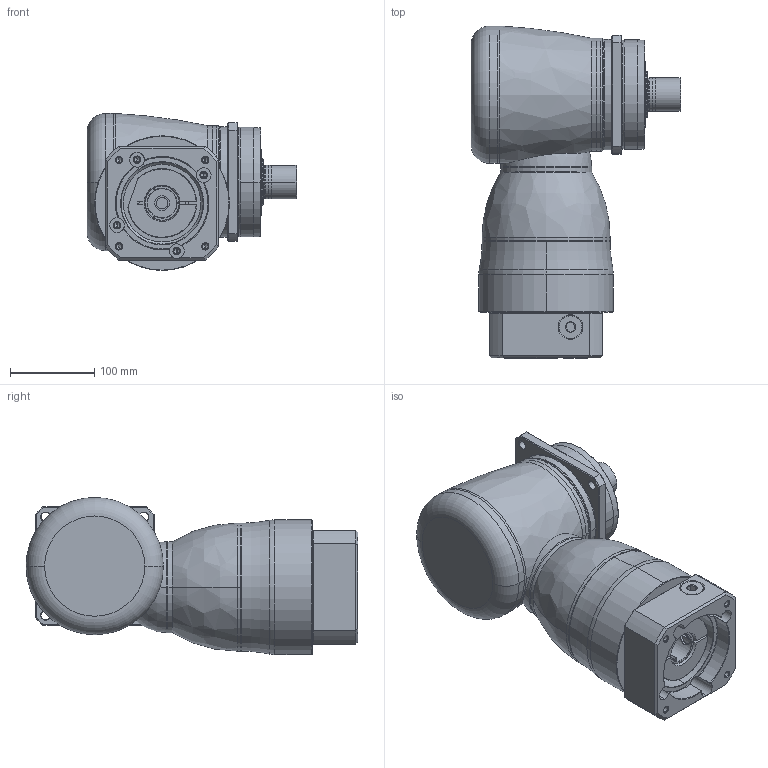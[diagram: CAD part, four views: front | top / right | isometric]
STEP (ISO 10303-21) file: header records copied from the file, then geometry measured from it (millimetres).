
FILE_DESCRIPTION((''),'2;1');
FILE_NAME('KF140_S3_2ST_35-P0409800101_ASM','2016-07-12T',('d01943'),(''),'PRO/ENGINEER BY PARAMETRIC TECHNOLOGY CORPORATION, 2008410','PRO/ENGINEER BY PARAMETRIC TECHNOLOGY CORPORATION, 2008410','');
FILE_SCHEMA(('CONFIG_CONTROL_DESIGN'));
Length unit declared in the file: millimetre
Products named in the file (11): P1008500002; P1804500001; P0915502001; P1315500001; P1007500001; P1317500401; P0409800101; P0503800012; P0912404001; 21711422019; KF140_S3_2ST_35-P0409800101_ASM
Assembly tree (10 placements, depth 2):
  KF140_S3_2ST_35-P0409800101_ASM
    P1008500002
    P1804500001
    P0915502001
    P1315500001
    P1007500001
    P1317500401
    P0409800101
    P0503800012
    P0912404001
    21711422019
Bounding box: 249 x 394 x 186.5 mm (x, y, z)
Volume: 6858627 mm3; surface area: 557358.7 mm2
Topology: 11 solids, 11 shells, 479 faces, 1089 edges, 647 vertices
Faces by surface type: cylinder 162, cone 134, plane 98, torus 64, bspline 19, sphere 2
Entity records: 18498 total; most frequent: CARTESIAN_POINT 7478, DIRECTION 2436, ORIENTED_EDGE 2138, EDGE_CURVE 1069, AXIS2_PLACEMENT_3D 1032, VERTEX_POINT 647, CIRCLE 551, EDGE_LOOP 546
